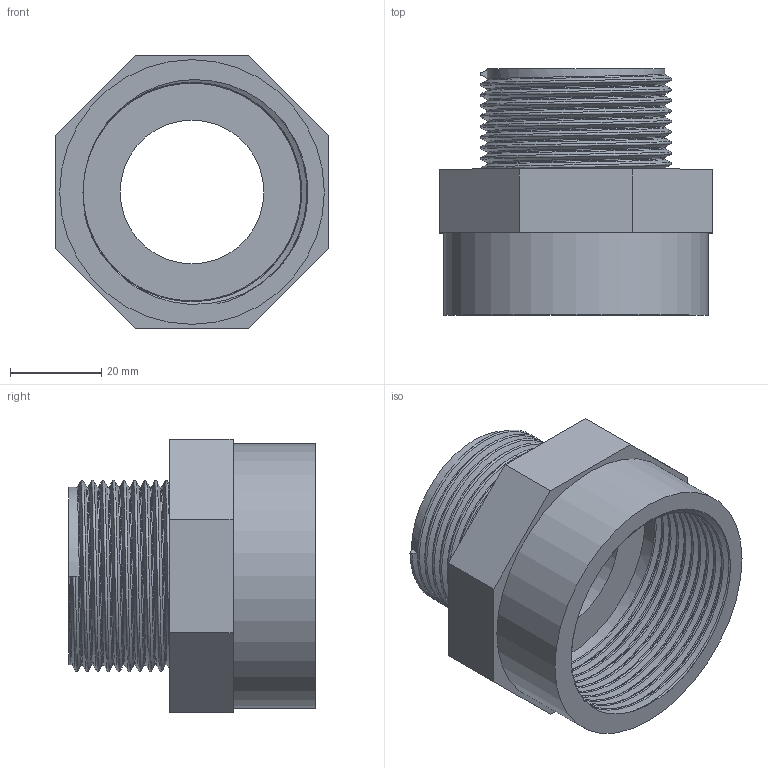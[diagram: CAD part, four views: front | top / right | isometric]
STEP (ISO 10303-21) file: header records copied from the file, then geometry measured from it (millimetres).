
FILE_DESCRIPTION(/* description */ ('PVC riduzione filettata BSP femmina-maschio (maggioratore filettato BSP M-F)'),/* implementation_level */ '2;1');
FILE_NAME(/* name */ 'C:\Users\POLYPIPE\Desktop\DATASET INVENTOR\LIBRERIA EFFAST\RACCORDI 3DxWEB\RER\3D_RERMGE\3D_RERMGE040F.stp',/* time_stamp */ '2018-01-19T16:40:10+01:00',/* author */ ('POLYPIPE'),/* organization */ ('Polypipe Italia s.r.l.'),/* preprocessor_version */ 'ST-DEVELOPER v16.1',/* originating_system */ 'Autodesk Inventor 2016',/* authorisation */ '');
FILE_SCHEMA (('CONFIG_CONTROL_DESIGN'));
Length unit declared in the file: millimetre
Products named in the file (1): 3D_RERMGE
Bounding box: 60 x 54 x 60 mm (x, y, z)
Volume: 47400.4 mm3; surface area: 24185 mm2
Topology: 1 solids, 1 shells, 29 faces, 69 edges, 45 vertices
Faces by surface type: plane 15, bspline 10, cylinder 4
Full cylindrical faces by diameter (mm): 31.5 x1, 38.952 x1, 47.803 x1, 58 x1
Entity records: 8023 total; most frequent: CARTESIAN_POINT 7408, ORIENTED_EDGE 128, DIRECTION 94, EDGE_CURVE 64, VERTEX_POINT 43, EDGE_LOOP 37, AXIS2_PLACEMENT_3D 32, LINE 30
